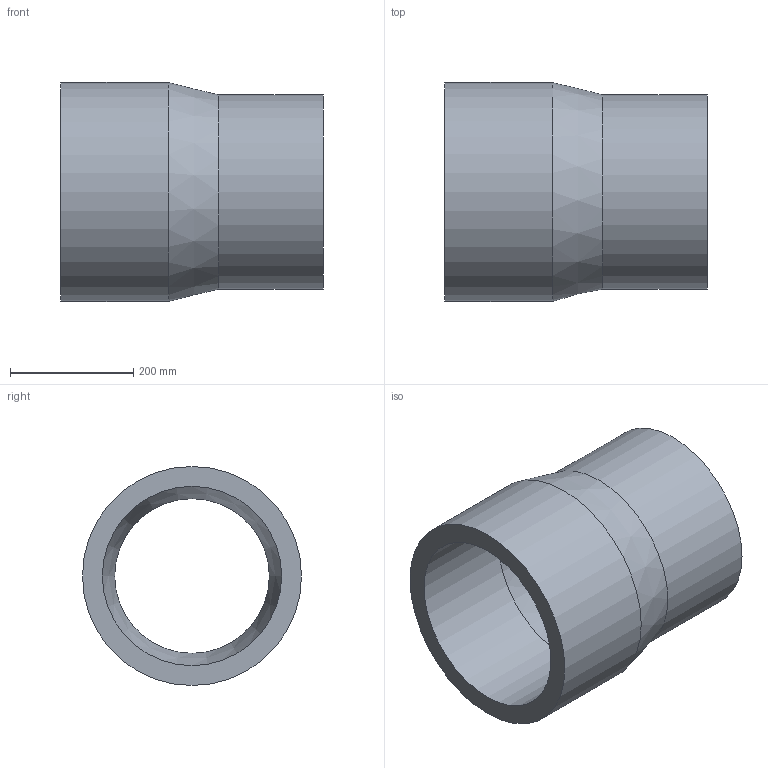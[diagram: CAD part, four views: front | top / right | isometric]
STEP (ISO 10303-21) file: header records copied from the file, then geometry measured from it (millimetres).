
FILE_DESCRIPTION(('Beschreibung'),'1');
FILE_NAME('V:/Ziel/25.91.03.103_SDR_11_PE100_355_315.STP', '2014-09-15T06:09:00',('Author'), ('Organization'), 'KCM Version 1.1.794.0', 'Kubotek KeyCreator', 'Authorization');
FILE_SCHEMA(('CONFIG_CONTROL_DESIGN'));
Length unit declared in the file: millimetre
Bounding box: 426 x 355 x 355 mm (x, y, z)
Volume: 13125524.6 mm3; surface area: 876512 mm2
Topology: 1 solids, 1 shells, 8 faces, 22 edges, 24 vertices
Faces by surface type: cylinder 4, cone 2, plane 2
Full cylindrical faces by diameter (mm): 250.6 x1, 290.6 x1, 315 x1, 355 x1
Entity records: 321 total; most frequent: DIRECTION 48, CARTESIAN_POINT 39, ORIENTED_EDGE 28, AXIS2_PLACEMENT_3D 17, EDGE_CURVE 14, VECTOR 14, LINE 14, EDGE_LOOP 10
